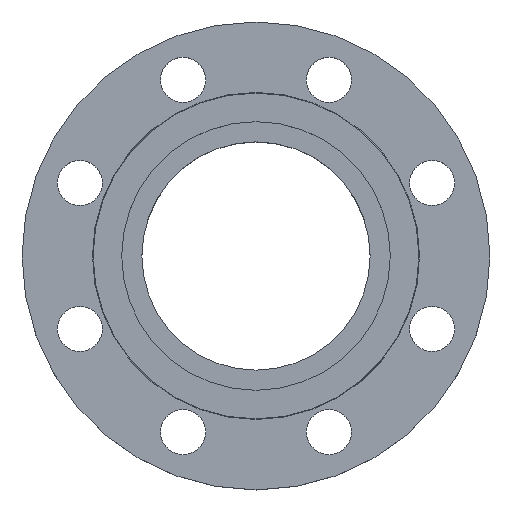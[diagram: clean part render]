
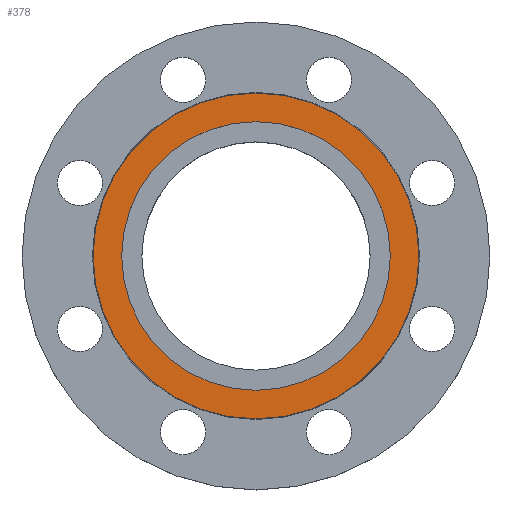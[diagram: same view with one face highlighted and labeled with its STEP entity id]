
A CAD part, top view. The second image highlights one B-rep face of the part: STEP entity #378.
In plain terms, the highlighted planar face has unit normal (0, 0, 1).
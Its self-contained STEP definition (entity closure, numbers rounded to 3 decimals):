
#21 = ORIENTED_EDGE ( 'NONE', *, *, #728, .F. ) ;
#61 = CIRCLE ( 'NONE', #727, 77.5 ) ;
#70 = CARTESIAN_POINT ( 'NONE',  ( 77.5, 0., 0. ) ) ;
#71 = CARTESIAN_POINT ( 'NONE',  ( 0., 0., 0. ) ) ;
#89 = DIRECTION ( 'NONE',  ( -1., 0., 0. ) ) ;
#94 = CIRCLE ( 'NONE', #751, 94. ) ;
#110 = VERTEX_POINT ( 'NONE', #299 ) ;
#146 = DIRECTION ( 'NONE',  ( 0., 0., 1. ) ) ;
#151 = VERTEX_POINT ( 'NONE', #1120 ) ;
#170 = CARTESIAN_POINT ( 'NONE',  ( 0., 0., 0. ) ) ;
#182 = EDGE_CURVE ( 'NONE', #970, #151, #61, .T. ) ;
#225 = DIRECTION ( 'NONE',  ( 0., 0., -1. ) ) ;
#227 = CARTESIAN_POINT ( 'NONE',  ( 94., 0., 0. ) ) ;
#235 = FACE_BOUND ( 'NONE', #946, .T. ) ;
#299 = CARTESIAN_POINT ( 'NONE',  ( -94., 0., 0. ) ) ;
#335 = VERTEX_POINT ( 'NONE', #227 ) ;
#378 = ADVANCED_FACE ( 'NONE', ( #1047, #235 ), #592, .T. ) ;
#381 = ORIENTED_EDGE ( 'NONE', *, *, #182, .T. ) ;
#438 = DIRECTION ( 'NONE',  ( 0., 0., -1. ) ) ;
#461 = EDGE_CURVE ( 'NONE', #335, #110, #513, .T. ) ;
#488 = EDGE_LOOP ( 'NONE', ( #21, #975 ) ) ;
#508 = DIRECTION ( 'NONE',  ( 1., 0., 0. ) ) ;
#513 = CIRCLE ( 'NONE', #1189, 94. ) ;
#527 = DIRECTION ( 'NONE',  ( 0., 0., -1. ) ) ;
#542 = CARTESIAN_POINT ( 'NONE',  ( 0., 0., 0. ) ) ;
#585 = DIRECTION ( 'NONE',  ( -1., 0., 0. ) ) ;
#592 = PLANE ( 'NONE',  #790 ) ;
#630 = AXIS2_PLACEMENT_3D ( 'NONE', #71, #438, #798 ) ;
#647 = ORIENTED_EDGE ( 'NONE', *, *, #649, .T. ) ;
#649 = EDGE_CURVE ( 'NONE', #151, #970, #1154, .T. ) ;
#727 = AXIS2_PLACEMENT_3D ( 'NONE', #170, #527, #890 ) ;
#728 = EDGE_CURVE ( 'NONE', #110, #335, #94, .T. ) ;
#751 = AXIS2_PLACEMENT_3D ( 'NONE', #542, #903, #89 ) ;
#790 = AXIS2_PLACEMENT_3D ( 'NONE', #960, #146, #508 ) ;
#798 = DIRECTION ( 'NONE',  ( -1., 0., 0. ) ) ;
#890 = DIRECTION ( 'NONE',  ( -1., 0., 0. ) ) ;
#903 = DIRECTION ( 'NONE',  ( 0., 0., -1. ) ) ;
#946 = EDGE_LOOP ( 'NONE', ( #647, #381 ) ) ;
#960 = CARTESIAN_POINT ( 'NONE',  ( 0., 0., 0. ) ) ;
#970 = VERTEX_POINT ( 'NONE', #70 ) ;
#975 = ORIENTED_EDGE ( 'NONE', *, *, #461, .F. ) ;
#1040 = CARTESIAN_POINT ( 'NONE',  ( 0., 0., 0. ) ) ;
#1047 = FACE_OUTER_BOUND ( 'NONE', #488, .T. ) ;
#1120 = CARTESIAN_POINT ( 'NONE',  ( -77.5, 0., 0. ) ) ;
#1154 = CIRCLE ( 'NONE', #630, 77.5 ) ;
#1189 = AXIS2_PLACEMENT_3D ( 'NONE', #1040, #225, #585 ) ;
